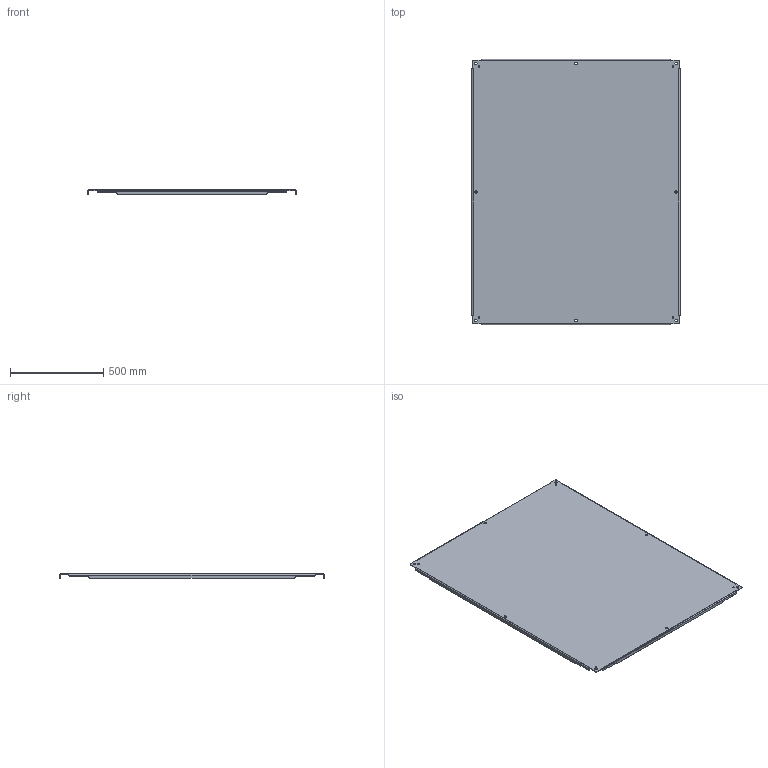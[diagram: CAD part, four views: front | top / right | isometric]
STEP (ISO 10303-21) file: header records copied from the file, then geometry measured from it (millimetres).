
FILE_DESCRIPTION((''),'2;1');
FILE_NAME('MODEL-075_ASM','2023-04-20T13:43:51',('richards'),('SAGINAW CONTROL & ENGINEERING'),'CREO PARAMETRIC BY PTC INC, 2021284','CREO PARAMETRIC BY PTC INC, 2021284','');
FILE_SCHEMA(('AUTOMOTIVE_DESIGN { 1 0 10303 214 1 1 1 1 }'));
Length unit declared in the file: inch
Products named in the file (2): MODEL-075-SUBPNL; MODEL-075_ASM
Assembly tree (1 placements, depth 2):
  MODEL-075_ASM
    MODEL-075-SUBPNL
Bounding box: 1116.01 x 1420.81 x 22.23 mm (x, y, z)
Volume: 5263382.1 mm3; surface area: 3333192 mm2
Topology: 1 solids, 1 shells, 122 faces, 328 edges, 208 vertices
Faces by surface type: cylinder 52, plane 46, bspline 24
Entity records: 6843 total; most frequent: CARTESIAN_POINT 1329, ORIENTED_EDGE 656, DIRECTION 634, PRESENTATION_STYLE_ASSIGNMENT 451, STYLED_ITEM 451, CURVE_STYLE 328, EDGE_CURVE 328, AXIS2_PLACEMENT_3D 221
